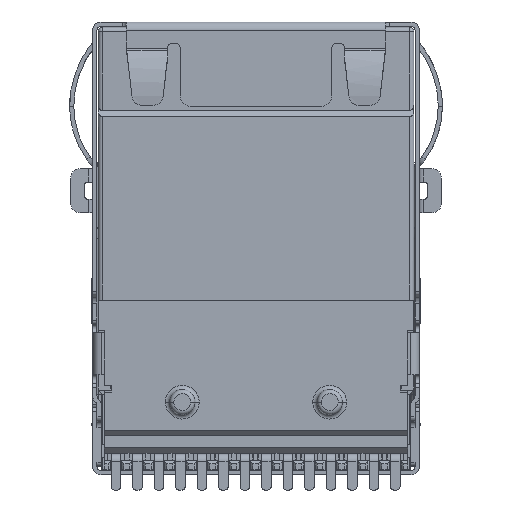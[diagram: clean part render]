
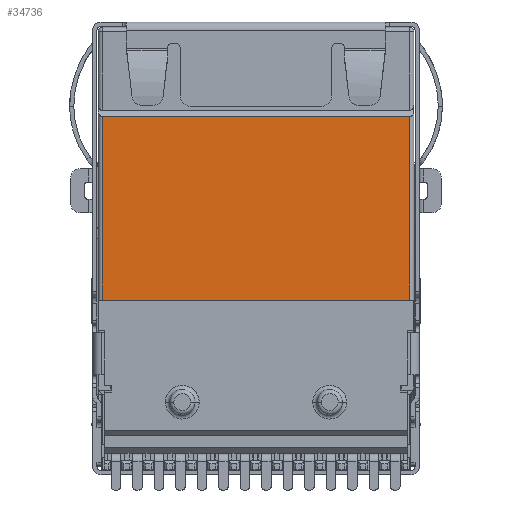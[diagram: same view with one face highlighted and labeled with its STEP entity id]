
A CAD part, front view. The second image highlights one B-rep face of the part: STEP entity #34736.
In plain terms, the highlighted planar face has unit normal (0, -1, 0).
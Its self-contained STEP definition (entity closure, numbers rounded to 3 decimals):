
#3589=DIRECTION('',(1.,0.,0.));
#3590=VECTOR('',#3589,14.6);
#3591=CARTESIAN_POINT('',(-7.3,0.,-12.95));
#3592=LINE('',#3591,#3590);
#7197=DIRECTION('',(0.,0.,1.));
#7198=VECTOR('',#7197,8.7);
#7199=CARTESIAN_POINT('',(7.3,0.,-12.95));
#7200=LINE('',#7199,#7198);
#7213=DIRECTION('',(1.,0.,0.));
#7214=VECTOR('',#7213,14.6);
#7215=CARTESIAN_POINT('',(-7.3,0.,-4.25));
#7216=LINE('',#7215,#7214);
#7225=DIRECTION('',(0.,0.,-1.));
#7226=VECTOR('',#7225,8.7);
#7227=CARTESIAN_POINT('',(-7.3,0.,-4.25));
#7228=LINE('',#7227,#7226);
#21620=CARTESIAN_POINT('',(-7.3,0.,-12.95));
#21621=VERTEX_POINT('',#21620);
#21622=CARTESIAN_POINT('',(7.3,0.,-12.95));
#21623=VERTEX_POINT('',#21622);
#22581=CARTESIAN_POINT('',(7.3,0.,-4.25));
#22582=VERTEX_POINT('',#22581);
#22583=CARTESIAN_POINT('',(-7.3,0.,-4.25));
#22584=VERTEX_POINT('',#22583);
#34723=CARTESIAN_POINT('',(0.,0.,-8.6));
#34724=DIRECTION('',(0.,1.,0.));
#34725=DIRECTION('',(0.,0.,-1.));
#34726=AXIS2_PLACEMENT_3D('',#34723,#34724,#34725);
#34727=PLANE('',#34726);
#34729=ORIENTED_EDGE('',*,*,#34728,.F.);
#34731=ORIENTED_EDGE('',*,*,#34730,.T.);
#34732=ORIENTED_EDGE('',*,*,#34715,.F.);
#34733=ORIENTED_EDGE('',*,*,#29792,.F.);
#34734=EDGE_LOOP('',(#34729,#34731,#34732,#34733));
#34735=FACE_OUTER_BOUND('',#34734,.F.);
#34736=ADVANCED_FACE('',(#34735),#34727,.F.);
#29792=EDGE_CURVE('',#21621,#21623,#3592,.T.);
#34715=EDGE_CURVE('',#21623,#22582,#7200,.T.);
#34728=EDGE_CURVE('',#22584,#21621,#7228,.T.);
#34730=EDGE_CURVE('',#22584,#22582,#7216,.T.);
